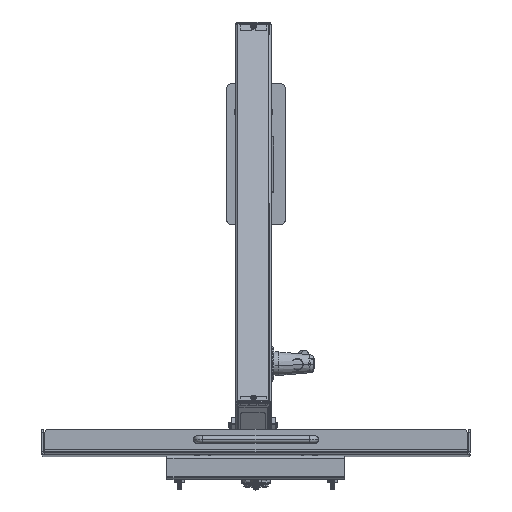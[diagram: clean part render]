
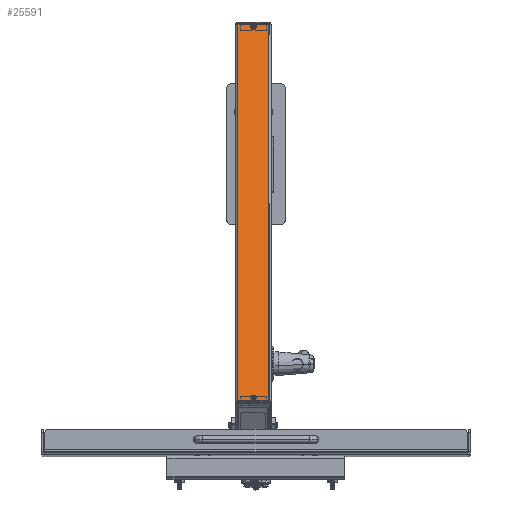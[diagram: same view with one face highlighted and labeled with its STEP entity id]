
A CAD part, top view. The second image highlights one B-rep face of the part: STEP entity #25591.
In plain terms, the highlighted planar face has unit normal (0, 0.819, 0.574) as drawn and (0, 1, 0) by its records, which use the part's own axes.
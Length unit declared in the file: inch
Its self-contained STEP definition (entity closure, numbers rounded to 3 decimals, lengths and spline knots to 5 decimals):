
#3981 = LINE ( 'NONE', #33400, #79295 ) ;
#4061 = CARTESIAN_POINT ( 'NONE',  ( -1.4, 0., 0. ) ) ;
#4161 = DIRECTION ( 'NONE',  ( 0., 1., 0. ) ) ;
#5502 = EDGE_CURVE ( 'NONE', #76387, #66901, #66348, .T. ) ;
#7601 = LINE ( 'NONE', #77762, #50570 ) ;
#8706 = ORIENTED_EDGE ( 'NONE', *, *, #45055, .F. ) ;
#10149 = VERTEX_POINT ( 'NONE', #4061 ) ;
#10670 = DIRECTION ( 'NONE',  ( 0., 1., 0. ) ) ;
#11003 = DIRECTION ( 'NONE',  ( 0., 0., -1. ) ) ;
#11284 = AXIS2_PLACEMENT_3D ( 'NONE', #61166, #4161, #32636 ) ;
#11755 = CIRCLE ( 'NONE', #19198, 0.079 ) ;
#17284 = LINE ( 'NONE', #74303, #55992 ) ;
#18935 = VERTEX_POINT ( 'NONE', #20773 ) ;
#19198 = AXIS2_PLACEMENT_3D ( 'NONE', #60492, #89036, #40392 ) ;
#20773 = CARTESIAN_POINT ( 'NONE',  ( -0.1, 0., 28. ) ) ;
#22109 = ORIENTED_EDGE ( 'NONE', *, *, #51507, .T. ) ;
#22594 = DIRECTION ( 'NONE',  ( 0., 1., 0. ) ) ;
#23978 = CARTESIAN_POINT ( 'NONE',  ( -0.75, 0., 0.255 ) ) ;
#24444 = CIRCLE ( 'NONE', #33448, 0.079 ) ;
#24514 = VERTEX_POINT ( 'NONE', #35152 ) ;
#25591 = ADVANCED_FACE ( 'NONE', ( #54098, #89666, #60663 ), #27776, .T. ) ;
#27776 = PLANE ( 'NONE',  #61366 ) ;
#29052 = DIRECTION ( 'NONE',  ( 1., 0., 0. ) ) ;
#30398 = CARTESIAN_POINT ( 'NONE',  ( -0.75, 0., 27.745 ) ) ;
#30560 = EDGE_CURVE ( 'NONE', #57770, #39820, #11755, .T. ) ;
#31822 = CARTESIAN_POINT ( 'NONE',  ( -0.75, 0., 27.666 ) ) ;
#32636 = DIRECTION ( 'NONE',  ( 0., 0., 1. ) ) ;
#33400 = CARTESIAN_POINT ( 'NONE',  ( -1.4, 0., 28. ) ) ;
#33448 = AXIS2_PLACEMENT_3D ( 'NONE', #30398, #72973, #74825 ) ;
#33554 = AXIS2_PLACEMENT_3D ( 'NONE', #23978, #22594, #72195 ) ;
#34512 = CARTESIAN_POINT ( 'NONE',  ( -1.4, 0., 28. ) ) ;
#35137 = VECTOR ( 'NONE', #44857, 39.37008 ) ;
#35152 = CARTESIAN_POINT ( 'NONE',  ( -0.1, 0., 0. ) ) ;
#35987 = ORIENTED_EDGE ( 'NONE', *, *, #5502, .F. ) ;
#37059 = EDGE_LOOP ( 'NONE', ( #87850, #8706 ) ) ;
#39567 = EDGE_CURVE ( 'NONE', #78128, #10149, #3981, .T. ) ;
#39820 = VERTEX_POINT ( 'NONE', #31822 ) ;
#40392 = DIRECTION ( 'NONE',  ( 0., 0., 1. ) ) ;
#44857 = DIRECTION ( 'NONE',  ( 1., 0., 0. ) ) ;
#45055 = EDGE_CURVE ( 'NONE', #39820, #57770, #24444, .T. ) ;
#45315 = CARTESIAN_POINT ( 'NONE',  ( -0.1, 0., 28. ) ) ;
#47571 = ORIENTED_EDGE ( 'NONE', *, *, #39567, .F. ) ;
#50570 = VECTOR ( 'NONE', #29052, 39.37008 ) ;
#51507 = EDGE_CURVE ( 'NONE', #18935, #24514, #17284, .T. ) ;
#54098 = FACE_BOUND ( 'NONE', #37059, .T. ) ;
#55992 = VECTOR ( 'NONE', #90211, 39.37008 ) ;
#57770 = VERTEX_POINT ( 'NONE', #88678 ) ;
#59386 = EDGE_CURVE ( 'NONE', #10149, #24514, #7601, .T. ) ;
#59706 = ORIENTED_EDGE ( 'NONE', *, *, #84541, .T. ) ;
#60492 = CARTESIAN_POINT ( 'NONE',  ( -0.75, 0., 27.745 ) ) ;
#60663 = FACE_OUTER_BOUND ( 'NONE', #64098, .T. ) ;
#61166 = CARTESIAN_POINT ( 'NONE',  ( -0.75, 0., 0.255 ) ) ;
#61366 = AXIS2_PLACEMENT_3D ( 'NONE', #69091, #10670, #68624 ) ;
#64098 = EDGE_LOOP ( 'NONE', ( #67758, #47571, #59706, #22109 ) ) ;
#66348 = CIRCLE ( 'NONE', #33554, 0.079 ) ;
#66901 = VERTEX_POINT ( 'NONE', #89290 ) ;
#67758 = ORIENTED_EDGE ( 'NONE', *, *, #59386, .F. ) ;
#68624 = DIRECTION ( 'NONE',  ( 0., 0., 1. ) ) ;
#69091 = CARTESIAN_POINT ( 'NONE',  ( -0.1, 0., 28. ) ) ;
#72195 = DIRECTION ( 'NONE',  ( 0., 0., 1. ) ) ;
#72973 = DIRECTION ( 'NONE',  ( 0., 1., 0. ) ) ;
#74303 = CARTESIAN_POINT ( 'NONE',  ( -0.1, 0., 28. ) ) ;
#74744 = LINE ( 'NONE', #45315, #35137 ) ;
#74825 = DIRECTION ( 'NONE',  ( 0., 0., 1. ) ) ;
#76387 = VERTEX_POINT ( 'NONE', #81264 ) ;
#77762 = CARTESIAN_POINT ( 'NONE',  ( -0.1, 0., 0. ) ) ;
#78128 = VERTEX_POINT ( 'NONE', #34512 ) ;
#79295 = VECTOR ( 'NONE', #11003, 39.37008 ) ;
#79709 = EDGE_LOOP ( 'NONE', ( #91404, #35987 ) ) ;
#81264 = CARTESIAN_POINT ( 'NONE',  ( -0.75, 0., 0.176 ) ) ;
#84403 = CIRCLE ( 'NONE', #11284, 0.079 ) ;
#84541 = EDGE_CURVE ( 'NONE', #78128, #18935, #74744, .T. ) ;
#84756 = EDGE_CURVE ( 'NONE', #66901, #76387, #84403, .T. ) ;
#87850 = ORIENTED_EDGE ( 'NONE', *, *, #30560, .F. ) ;
#88678 = CARTESIAN_POINT ( 'NONE',  ( -0.75, 0., 27.824 ) ) ;
#89036 = DIRECTION ( 'NONE',  ( 0., 1., 0. ) ) ;
#89290 = CARTESIAN_POINT ( 'NONE',  ( -0.75, 0., 0.334 ) ) ;
#89666 = FACE_BOUND ( 'NONE', #79709, .T. ) ;
#90211 = DIRECTION ( 'NONE',  ( 0., 0., -1. ) ) ;
#91404 = ORIENTED_EDGE ( 'NONE', *, *, #84756, .F. ) ;
